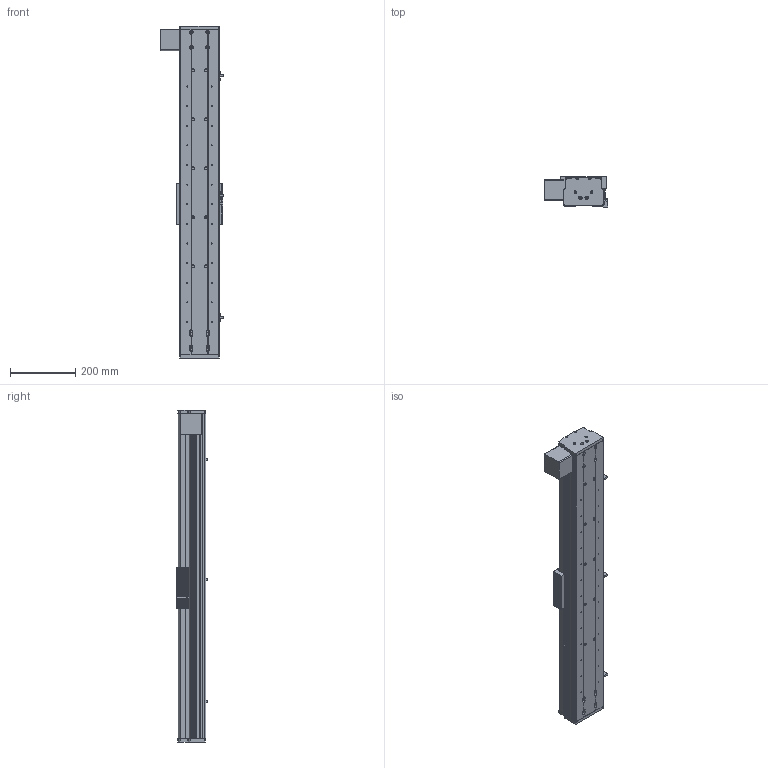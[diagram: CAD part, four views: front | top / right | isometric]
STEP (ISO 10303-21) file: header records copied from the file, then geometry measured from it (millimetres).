
FILE_DESCRIPTION (( 'STEP AP214' ), '1' );
FILE_NAME ('CF120B-D-700-FW.STEP', '2020-01-15T07:27:31', ( '微软用户' ), ( '微软中国' ), 'SwSTEP 2.0', 'SolidWorks 2016', '' );
FILE_SCHEMA (( 'AUTOMOTIVE_DESIGN' ));
Length unit declared in the file: millimetre
Products named in the file (14): CF120B耜啣; CF120B裔啣-700; CF120B賑雄啣; CF120-B賑雄輸; EGR15絳寢-700; EGH-15-CABZnew; CF120B臏倰第-700; CF120B-D-700-FW; 嫖萇羲壽; 75-86-95癹弇羲壽覜茼え; 6060-3232源臏奪-植雄釱; 6060-3232源臏奪-萇儂釱; 6060-3232源臏奪-翋雄釱; CF120B耜啣萇儂傷
Assembly tree (19 placements, depth 2):
  CF120B-D-700-FW
    CF120B臏倰第-700
    EGH-15-CABZnew  x4
    EGR15絳寢-700  x2
    CF120-B賑雄輸
    CF120B賑雄啣
    CF120B裔啣-700
    CF120B耜啣
    CF120B耜啣萇儂傷
    6060-3232源臏奪-翋雄釱
    6060-3232源臏奪-萇儂釱
    6060-3232源臏奪-植雄釱
    75-86-95癹弇羲壽覜茼え
    嫖萇羲壽  x3
Bounding box: 193.1 x 93.85 x 1015 mm (x, y, z)
Volume: 4276092.5 mm3; surface area: 1498941.5 mm2
Topology: 15 solids, 67 shells, 7361 faces, 27870 edges, 19180 vertices
Faces by surface type: plane 3618, bspline 2348, cylinder 1043, cone 128, torus 128, sphere 96
Entity records: 133192 total; most frequent: CARTESIAN_POINT 42395, ORIENTED_EDGE 15804, DIRECTION 12595, EDGE_CURVE 9026, VERTEX_POINT 6175, VECTOR 5297, LINE 5297, AXIS2_PLACEMENT_3D 3649
